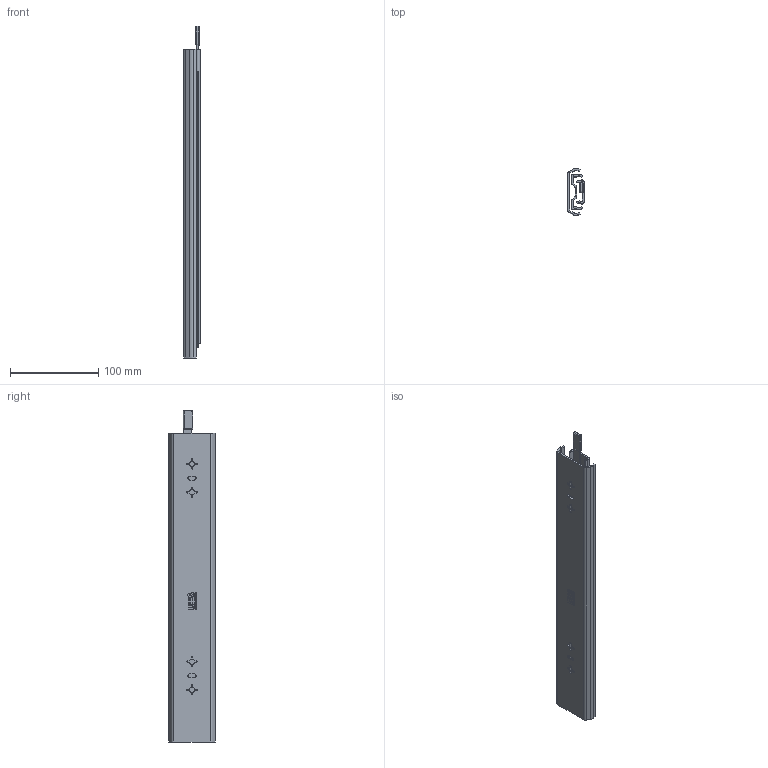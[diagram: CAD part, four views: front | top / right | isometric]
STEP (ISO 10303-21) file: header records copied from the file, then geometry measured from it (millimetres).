
FILE_DESCRIPTION (( 'STEP AP214' ), '1' );
FILE_NAME ('DSCHMD350MML-CLOSED.STEP', '2018-11-27T07:45:10', ( '' ), ( '' ), 'SwSTEP 2.0', 'SolidWorks 2017', '' );
FILE_SCHEMA (( 'AUTOMOTIVE_DESIGN' ));
Length unit declared in the file: millimetre
Products named in the file (5): DSCHMDL-2_350; DSCHMDL-4; DSCHMD350MML-CLOSED; DSCHMDL-1_350; DSCHMDL-3_350
Assembly tree (4 placements, depth 2):
  DSCHMD350MML-CLOSED
    DSCHMDL-3_350
    DSCHMDL-2_350
    DSCHMDL-1_350
    DSCHMDL-4
Bounding box: 18.7 x 53 x 376.1 mm (x, y, z)
Volume: 115515.7 mm3; surface area: 121059.7 mm2
Topology: 4 solids, 4 shells, 902 faces, 2468 edges, 1636 vertices
Faces by surface type: plane 504, bspline 237, cylinder 125, cone 28, torus 4, sphere 4
Entity records: 30512 total; most frequent: CARTESIAN_POINT 8606, ORIENTED_EDGE 4928, DIRECTION 3562, EDGE_CURVE 2464, VECTOR 1650, LINE 1650, VERTEX_POINT 1636, EDGE_LOOP 994
